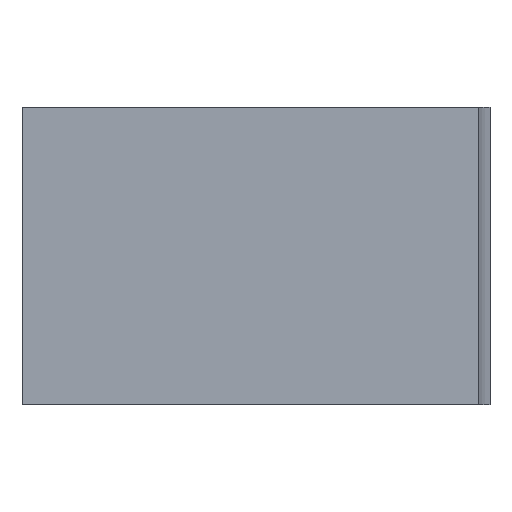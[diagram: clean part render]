
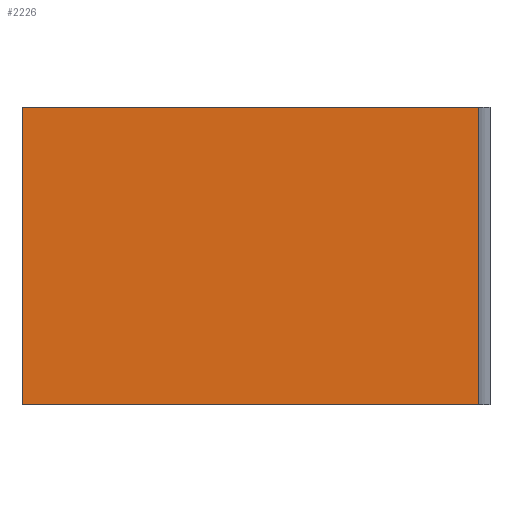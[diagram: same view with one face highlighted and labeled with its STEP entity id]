
A CAD part, left-side view. The second image highlights one B-rep face of the part: STEP entity #2226.
In plain terms, the highlighted planar face has unit normal (-1, 0, 0).
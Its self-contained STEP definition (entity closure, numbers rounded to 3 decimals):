
#21 = EDGE_CURVE ( 'NONE', #1494, #3008, #3038, .T. ) ;
#152 = ORIENTED_EDGE ( 'NONE', *, *, #21, .F. ) ;
#201 = EDGE_LOOP ( 'NONE', ( #2559, #2663, #152, #1839 ) ) ;
#323 = VECTOR ( 'NONE', #2976, 1000. ) ;
#433 = EDGE_CURVE ( 'NONE', #2258, #3008, #2664, .T. ) ;
#458 = CARTESIAN_POINT ( 'NONE',  ( -77.662, 18.807, 162.7 ) ) ;
#518 = DIRECTION ( 'NONE',  ( 0., 0., 1. ) ) ;
#645 = PLANE ( 'NONE',  #932 ) ;
#658 = DIRECTION ( 'NONE',  ( 0., 0., -1. ) ) ;
#795 = VECTOR ( 'NONE', #518, 1000. ) ;
#932 = AXIS2_PLACEMENT_3D ( 'NONE', #458, #2823, #658 ) ;
#993 = CARTESIAN_POINT ( 'NONE',  ( -77.662, -20.193, 137.3 ) ) ;
#1002 = CARTESIAN_POINT ( 'NONE',  ( -77.662, 18.807, 162.7 ) ) ;
#1079 = CARTESIAN_POINT ( 'NONE',  ( -77.662, 18.807, 137.3 ) ) ;
#1080 = EDGE_CURVE ( 'NONE', #1432, #1494, #2060, .T. ) ;
#1124 = CARTESIAN_POINT ( 'NONE',  ( -77.662, 18.807, 162.7 ) ) ;
#1264 = LINE ( 'NONE', #2553, #323 ) ;
#1432 = VERTEX_POINT ( 'NONE', #1079 ) ;
#1494 = VERTEX_POINT ( 'NONE', #1124 ) ;
#1839 = ORIENTED_EDGE ( 'NONE', *, *, #1080, .F. ) ;
#1884 = EDGE_CURVE ( 'NONE', #1432, #2258, #1264, .T. ) ;
#2038 = CARTESIAN_POINT ( 'NONE',  ( -77.662, -20.193, 162.7 ) ) ;
#2060 = LINE ( 'NONE', #2211, #795 ) ;
#2088 = VECTOR ( 'NONE', #2145, 1000. ) ;
#2145 = DIRECTION ( 'NONE',  ( 0., -1., 0. ) ) ;
#2211 = CARTESIAN_POINT ( 'NONE',  ( -77.662, 18.807, 162.7 ) ) ;
#2226 = ADVANCED_FACE ( 'NONE', ( #2315 ), #645, .F. ) ;
#2243 = DIRECTION ( 'NONE',  ( 0., 0., 1. ) ) ;
#2258 = VERTEX_POINT ( 'NONE', #993 ) ;
#2289 = VECTOR ( 'NONE', #2243, 1000. ) ;
#2315 = FACE_OUTER_BOUND ( 'NONE', #201, .T. ) ;
#2553 = CARTESIAN_POINT ( 'NONE',  ( -77.662, 18.807, 137.3 ) ) ;
#2559 = ORIENTED_EDGE ( 'NONE', *, *, #1884, .T. ) ;
#2663 = ORIENTED_EDGE ( 'NONE', *, *, #433, .T. ) ;
#2664 = LINE ( 'NONE', #2699, #2289 ) ;
#2699 = CARTESIAN_POINT ( 'NONE',  ( -77.662, -20.193, 137.299 ) ) ;
#2823 = DIRECTION ( 'NONE',  ( 1., 0., 0. ) ) ;
#2976 = DIRECTION ( 'NONE',  ( 0., -1., 0. ) ) ;
#3008 = VERTEX_POINT ( 'NONE', #2038 ) ;
#3038 = LINE ( 'NONE', #1002, #2088 ) ;
